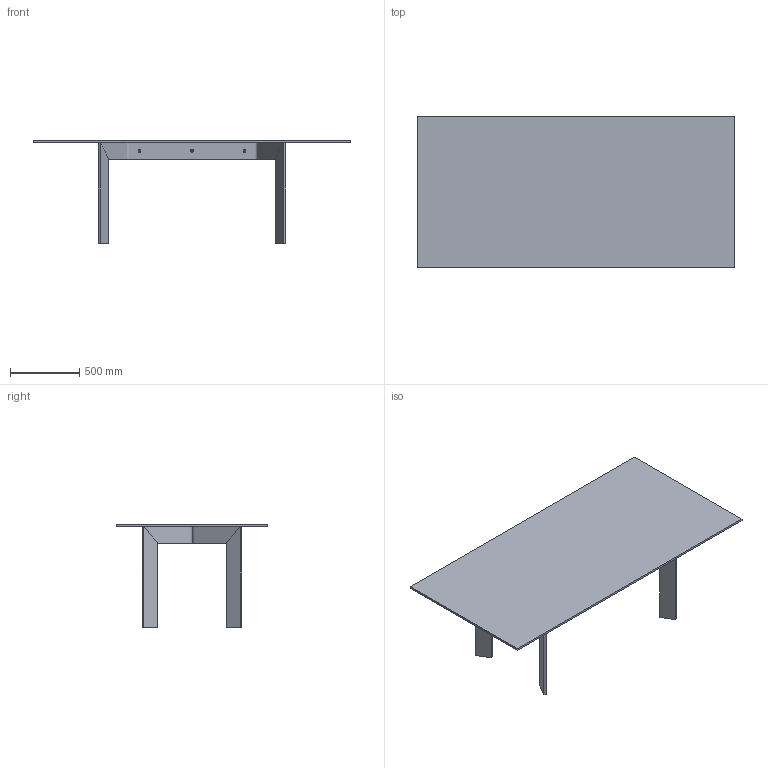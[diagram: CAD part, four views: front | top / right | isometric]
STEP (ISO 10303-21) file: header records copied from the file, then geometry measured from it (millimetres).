
FILE_DESCRIPTION(/* description */ (''),/* implementation_level */ '2;1');
FILE_NAME(/* name */ 'CR23 - Cross 230x110',/* time_stamp */ '2012-06-19T16:41:14+02:00',/* author */ (''),/* organization */ (''),/* preprocessor_version */ 'ST-DEVELOPER v10',/* originating_system */ '',/* authorisation */ '');
FILE_SCHEMA (('CONFIG_CONTROL_DESIGN'));
Length unit declared in the file: millimetre
Products named in the file (1): 1
Bounding box: 2300 x 1100 x 745 mm (x, y, z)
Volume: 53978969.7 mm3; surface area: 6920757 mm2
Topology: 19 solids, 19 shells, 236 faces, 474 edges, 288 vertices
Faces by surface type: bspline 162, plane 74
Entity records: 6742 total; most frequent: CARTESIAN_POINT 3764, ORIENTED_EDGE 948, EDGE_CURVE 474, VERTEX_POINT 288, EDGE_LOOP 272, ADVANCED_FACE 236, FACE_OUTER_BOUND 236, B_SPLINE_CURVE_WITH_KNOTS 138
